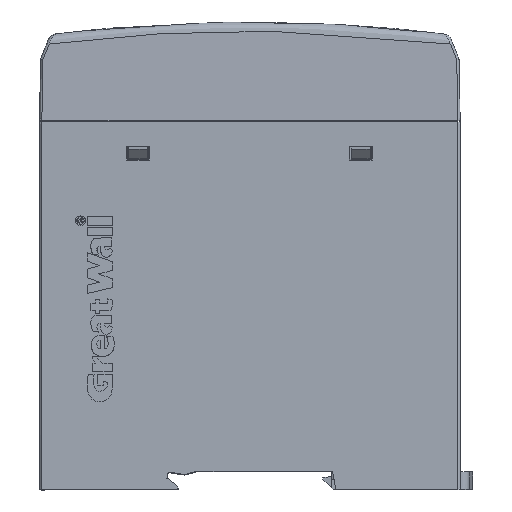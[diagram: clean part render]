
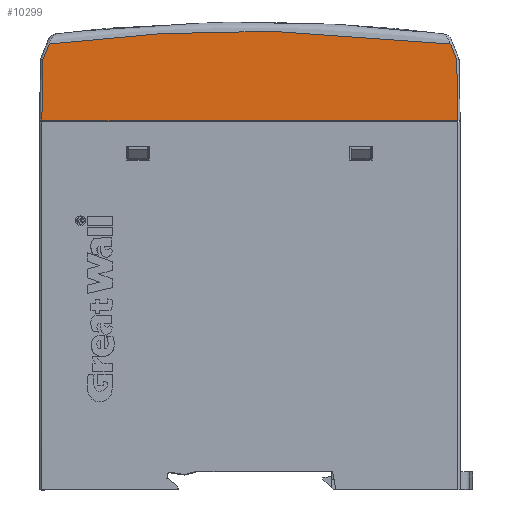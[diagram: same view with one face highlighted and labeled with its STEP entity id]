
A CAD part, top view. The second image highlights one B-rep face of the part: STEP entity #10299.
In plain terms, the highlighted planar face has unit normal (0, 0.018, 1).
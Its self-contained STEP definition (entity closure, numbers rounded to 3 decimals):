
#10299=ADVANCED_FACE('',(#13534),#69640,.T.);
#13534=FACE_OUTER_BOUND('',#17289,.T.);
#17289=EDGE_LOOP('',(#35524,#35525,#35526,#35527,#35528,#35529));
#35524=ORIENTED_EDGE('',*,*,#47957,.F.);
#35525=ORIENTED_EDGE('',*,*,#47996,.F.);
#35526=ORIENTED_EDGE('',*,*,#48002,.T.);
#35527=ORIENTED_EDGE('',*,*,#47999,.F.);
#35528=ORIENTED_EDGE('',*,*,#47958,.F.);
#35529=ORIENTED_EDGE('',*,*,#48003,.T.);
#47957=EDGE_CURVE('',#67473,#67474,#58166,.T.);
#47958=EDGE_CURVE('',#67476,#67475,#58167,.T.);
#47996=EDGE_CURVE('',#67519,#67473,#58205,.T.);
#47999=EDGE_CURVE('',#67475,#67520,#58208,.T.);
#48002=EDGE_CURVE('',#67519,#67520,#58211,.T.);
#48003=EDGE_CURVE('',#67476,#67474,#58212,.T.);
#58166=B_SPLINE_CURVE_WITH_KNOTS('',1,(#177957,#177958),.UNSPECIFIED.,.F.,
 .F.,(2,2),(0.,3.583),.UNSPECIFIED.);
#58167=B_SPLINE_CURVE_WITH_KNOTS('',1,(#177959,#177960),.UNSPECIFIED.,.F.,
 .F.,(2,2),(-3.583,0.),.UNSPECIFIED.);
#58205=B_SPLINE_CURVE_WITH_KNOTS('',1,(#178233,#178234),.UNSPECIFIED.,.F.,
 .F.,(2,2),(0.,13.055),.UNSPECIFIED.);
#58208=B_SPLINE_CURVE_WITH_KNOTS('',1,(#178243,#178244),.UNSPECIFIED.,.F.,
 .F.,(2,2),(0.,13.055),.UNSPECIFIED.);
#58211=B_SPLINE_CURVE_WITH_KNOTS('',1,(#178277,#178278),.UNSPECIFIED.,.F.,
 .F.,(2,2),(0.,88.958),.UNSPECIFIED.);
#58212=B_SPLINE_CURVE_WITH_KNOTS('',2,(#178279,#178280,#178281,#178282,
#178283,#178284,#178285,#178286,#178287,#178288,#178289,#178290,#178291,
#178292,#178293,#178294,#178295,#178296,#178297,#178298,#178299,#178300,
#178301,#178302,#178303,#178304,#178305,#178306,#178307,#178308),
 .UNSPECIFIED.,.F.,.F.,(3,1,1,1,1,1,1,1,1,1,1,1,1,1,1,1,1,1,1,1,1,1,1,1,
1,1,1,1,3),(0.,2.011,5.231,8.473,11.716,
14.958,18.201,21.443,24.686,27.928,
31.171,34.413,37.655,40.898,43.492,
46.734,49.977,53.219,56.462,59.704,
62.946,66.189,69.431,72.674,75.916,
79.159,82.401,84.671,86.113),
 .UNSPECIFIED.);
#67473=VERTEX_POINT('',#177406);
#67474=VERTEX_POINT('',#177407);
#67475=VERTEX_POINT('',#177408);
#67476=VERTEX_POINT('',#177409);
#67519=VERTEX_POINT('',#177452);
#67520=VERTEX_POINT('',#177453);
#69640=PLANE('',#71685);
#71685=AXIS2_PLACEMENT_3D('',#174380,#73611,$);
#73611=DIRECTION('',(0.,0.017,1.));
#174380=CARTESIAN_POINT('',(-8.495,76.864,55.015));
#177406=CARTESIAN_POINT('',(0.749,91.951,54.751));
#177407=CARTESIAN_POINT('',(2.061,95.284,54.693));
#177408=CARTESIAN_POINT('',(89.251,91.951,54.751));
#177409=CARTESIAN_POINT('',(87.939,95.284,54.693));
#177452=CARTESIAN_POINT('',(0.521,78.9,54.979));
#177453=CARTESIAN_POINT('',(89.479,78.9,54.979));
#177957=CARTESIAN_POINT('',(0.749,91.951,54.751));
#177958=CARTESIAN_POINT('',(2.061,95.284,54.693));
#177959=CARTESIAN_POINT('',(87.939,95.284,54.693));
#177960=CARTESIAN_POINT('',(89.251,91.951,54.751));
#178233=CARTESIAN_POINT('',(0.521,78.9,54.979));
#178234=CARTESIAN_POINT('',(0.749,91.951,54.751));
#178243=CARTESIAN_POINT('',(89.251,91.951,54.751));
#178244=CARTESIAN_POINT('',(89.479,78.9,54.979));
#178277=CARTESIAN_POINT('',(0.521,78.9,54.979));
#178278=CARTESIAN_POINT('',(89.479,78.9,54.979));
#178279=CARTESIAN_POINT('',(87.939,95.284,54.693));
#178280=CARTESIAN_POINT('',(86.941,95.412,54.691));
#178281=CARTESIAN_POINT('',(84.345,95.731,54.685));
#178282=CARTESIAN_POINT('',(81.134,96.093,54.679));
#178283=CARTESIAN_POINT('',(77.909,96.426,54.673));
#178284=CARTESIAN_POINT('',(74.681,96.727,54.668));
#178285=CARTESIAN_POINT('',(71.45,96.998,54.663));
#178286=CARTESIAN_POINT('',(68.216,97.237,54.659));
#178287=CARTESIAN_POINT('',(64.98,97.445,54.655));
#178288=CARTESIAN_POINT('',(61.743,97.622,54.652));
#178289=CARTESIAN_POINT('',(58.503,97.768,54.65));
#178290=CARTESIAN_POINT('',(55.263,97.882,54.648));
#178291=CARTESIAN_POINT('',(52.022,97.966,54.646));
#178292=CARTESIAN_POINT('',(48.78,98.018,54.645));
#178293=CARTESIAN_POINT('',(45.862,98.036,54.645));
#178294=CARTESIAN_POINT('',(42.943,98.033,54.645));
#178295=CARTESIAN_POINT('',(39.701,97.997,54.646));
#178296=CARTESIAN_POINT('',(36.459,97.93,54.647));
#178297=CARTESIAN_POINT('',(33.218,97.832,54.649));
#178298=CARTESIAN_POINT('',(29.979,97.703,54.651));
#178299=CARTESIAN_POINT('',(26.74,97.543,54.654));
#178300=CARTESIAN_POINT('',(23.503,97.351,54.657));
#178301=CARTESIAN_POINT('',(20.268,97.129,54.661));
#178302=CARTESIAN_POINT('',(17.036,96.875,54.665));
#178303=CARTESIAN_POINT('',(13.806,96.59,54.67));
#178304=CARTESIAN_POINT('',(10.579,96.274,54.676));
#178305=CARTESIAN_POINT('',(7.355,95.927,54.682));
#178306=CARTESIAN_POINT('',(4.618,95.605,54.687));
#178307=CARTESIAN_POINT('',(2.776,95.376,54.691));
#178308=CARTESIAN_POINT('',(2.061,95.284,54.693));
